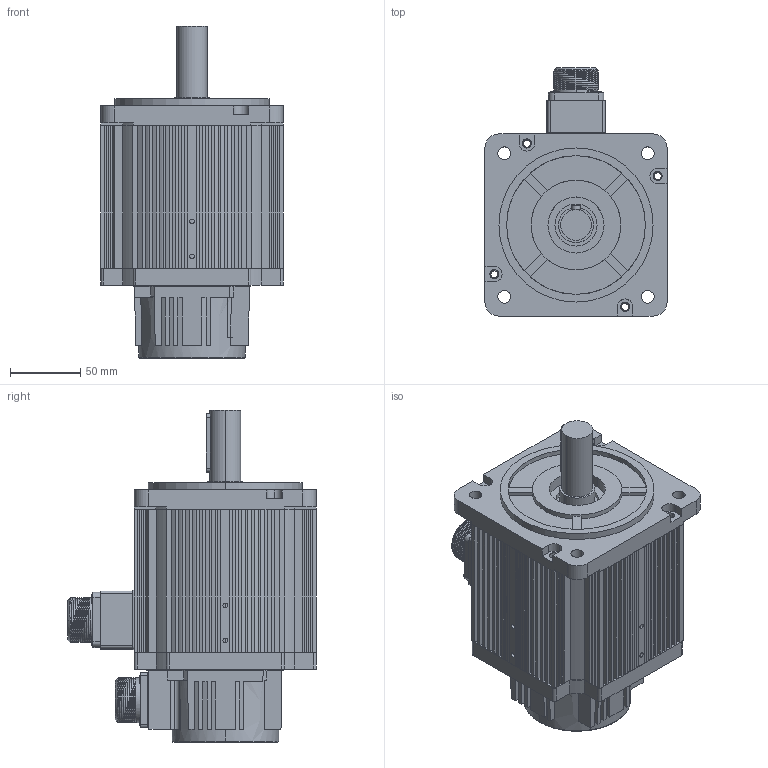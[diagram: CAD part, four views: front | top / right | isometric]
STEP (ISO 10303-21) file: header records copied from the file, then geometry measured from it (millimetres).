
FILE_DESCRIPTION (( 'STEP AP203' ), '1' );
FILE_NAME ('z130mm 1.3kW.STEP', '2010-04-02T05:48:01', ( '' ), ( '' ), 'SwSTEP 2.0', 'SolidWorks 2011', '' );
FILE_SCHEMA (( 'CONFIG_CONTROL_DESIGN' ));
Length unit declared in the file: millimetre
Products named in the file (3): z130mm 1.3kW; 1.3kW - 6mm key; z130mm 1.3kW build
Assembly tree (2 placements, depth 2):
  z130mm 1.3kW
    z130mm 1.3kW build
    1.3kW - 6mm key
Bounding box: 130 x 177.5 x 237 mm (x, y, z)
Surface area: 292810.4 mm2
Topology: 1 solids, 18 shells, 791 faces, 2430 edges, 1668 vertices
Faces by surface type: plane 484, cylinder 274, bspline 26, cone 7
Entity records: 34931 total; most frequent: CARTESIAN_POINT 13682, DIRECTION 4186, ORIENTED_EDGE 4153, EDGE_CURVE 2398, VERTEX_POINT 1668, VECTOR 1586, LINE 1586, AXIS2_PLACEMENT_3D 1300
